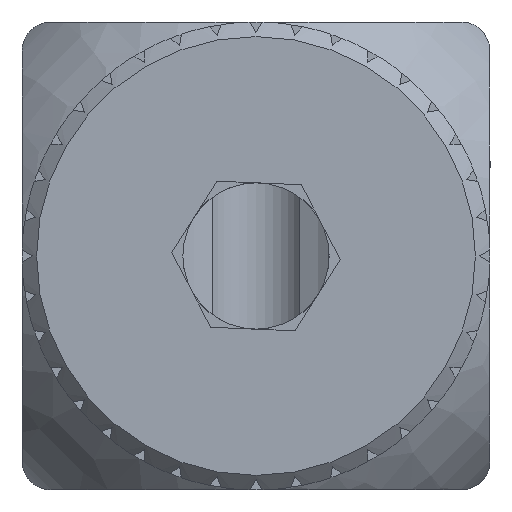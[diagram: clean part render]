
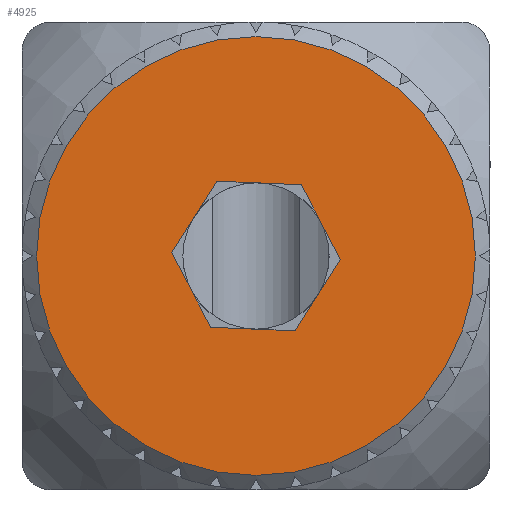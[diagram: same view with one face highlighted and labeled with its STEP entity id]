
A CAD part, left-side view. The second image highlights one B-rep face of the part: STEP entity #4925.
In plain terms, the highlighted planar face has unit normal (-1, 0, 0).
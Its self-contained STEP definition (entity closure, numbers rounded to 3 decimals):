
#385 = AXIS2_PLACEMENT_3D ( 'NONE', #6893, #6894, #6895 ) ;
#1422 = AXIS2_PLACEMENT_3D ( 'NONE', #2641, #2658, #2660 ) ;
#1929 = LINE ( 'NONE', #6306, #1945 ) ;
#1945 = VECTOR ( 'NONE', #6333, 1000. ) ;
#1948 = LINE ( 'NONE', #6346, #1951 ) ;
#1951 = VECTOR ( 'NONE', #6350, 1000. ) ;
#1954 = LINE ( 'NONE', #6360, #1957 ) ;
#1957 = VECTOR ( 'NONE', #6363, 1000. ) ;
#1960 = LINE ( 'NONE', #6373, #1963 ) ;
#1963 = VECTOR ( 'NONE', #6377, 1000. ) ;
#1966 = LINE ( 'NONE', #6387, #1969 ) ;
#1969 = VECTOR ( 'NONE', #6883, 1000. ) ;
#1972 = LINE ( 'NONE', #6887, #1975 ) ;
#1975 = VECTOR ( 'NONE', #6888, 1000. ) ;
#1976 = CIRCLE ( 'NONE', #385, 7.5 ) ;
#2641 = CARTESIAN_POINT ( 'NONE',  ( 28.398, -25.573, 40.994 ) ) ;
#2650 = PLANE ( 'NONE',  #1422 ) ;
#2658 = DIRECTION ( 'NONE',  ( 1., 0., 0. ) ) ;
#2660 = DIRECTION ( 'NONE',  ( 0., 0., -1. ) ) ;
#4174 = EDGE_CURVE ( 'NONE', #8353, #8363, #1929, .T. ) ;
#4177 = EDGE_CURVE ( 'NONE', #8352, #8353, #1948, .T. ) ;
#4180 = EDGE_CURVE ( 'NONE', #8348, #8352, #1954, .T. ) ;
#4183 = EDGE_CURVE ( 'NONE', #8347, #8348, #1960, .T. ) ;
#4186 = EDGE_CURVE ( 'NONE', #8357, #8347, #1966, .T. ) ;
#4189 = EDGE_CURVE ( 'NONE', #8363, #8357, #1972, .T. ) ;
#4191 = EDGE_CURVE ( 'NONE', #7303, #7303, #1976, .T. ) ;
#4925 = ADVANCED_FACE ( 'NONE', ( #6023, #6030 ), #2650, .F. ) ;
#5439 = ORIENTED_EDGE ( 'NONE', *, *, #4191, .T. ) ;
#5440 = ORIENTED_EDGE ( 'NONE', *, *, #4186, .F. ) ;
#5441 = ORIENTED_EDGE ( 'NONE', *, *, #4183, .F. ) ;
#5442 = ORIENTED_EDGE ( 'NONE', *, *, #4180, .F. ) ;
#5443 = ORIENTED_EDGE ( 'NONE', *, *, #4177, .F. ) ;
#5444 = ORIENTED_EDGE ( 'NONE', *, *, #4174, .F. ) ;
#5445 = ORIENTED_EDGE ( 'NONE', *, *, #4189, .F. ) ;
#6023 = FACE_BOUND ( 'NONE', #8934, .T. ) ;
#6030 = FACE_OUTER_BOUND ( 'NONE', #8936, .T. ) ;
#6306 = CARTESIAN_POINT ( 'NONE',  ( 28.398, -24.237, 43.553 ) ) ;
#6333 = DIRECTION ( 'NONE',  ( 0., 0.536, -0.844 ) ) ;
#6346 = CARTESIAN_POINT ( 'NONE',  ( 28.398, -27.121, 43.431 ) ) ;
#6350 = DIRECTION ( 'NONE',  ( 0., 0.999, 0.042 ) ) ;
#6360 = CARTESIAN_POINT ( 'NONE',  ( 28.398, -28.458, 40.872 ) ) ;
#6363 = DIRECTION ( 'NONE',  ( 0., 0.463, 0.886 ) ) ;
#6373 = CARTESIAN_POINT ( 'NONE',  ( 28.398, -26.91, 38.435 ) ) ;
#6377 = DIRECTION ( 'NONE',  ( 0., -0.536, 0.844 ) ) ;
#6387 = CARTESIAN_POINT ( 'NONE',  ( 28.398, -24.026, 38.557 ) ) ;
#6571 = CARTESIAN_POINT ( 'NONE',  ( 28.398, -26.91, 38.435 ) ) ;
#6572 = CARTESIAN_POINT ( 'NONE',  ( 28.398, -28.458, 40.872 ) ) ;
#6576 = CARTESIAN_POINT ( 'NONE',  ( 28.398, -27.121, 43.431 ) ) ;
#6577 = CARTESIAN_POINT ( 'NONE',  ( 28.398, -24.237, 43.553 ) ) ;
#6581 = CARTESIAN_POINT ( 'NONE',  ( 28.398, -24.026, 38.557 ) ) ;
#6587 = CARTESIAN_POINT ( 'NONE',  ( 28.398, -22.689, 41.116 ) ) ;
#6883 = DIRECTION ( 'NONE',  ( 0., -0.999, -0.042 ) ) ;
#6887 = CARTESIAN_POINT ( 'NONE',  ( 28.398, -22.689, 41.116 ) ) ;
#6888 = DIRECTION ( 'NONE',  ( 0., -0.463, -0.886 ) ) ;
#6893 = CARTESIAN_POINT ( 'NONE',  ( 28.398, -25.573, 40.994 ) ) ;
#6894 = DIRECTION ( 'NONE',  ( -1., 0., 0. ) ) ;
#6895 = DIRECTION ( 'NONE',  ( 0., 0., -1. ) ) ;
#7303 = VERTEX_POINT ( 'NONE', #7416 ) ;
#7416 = CARTESIAN_POINT ( 'NONE',  ( 28.398, -25.573, 33.494 ) ) ;
#8347 = VERTEX_POINT ( 'NONE', #6571 ) ;
#8348 = VERTEX_POINT ( 'NONE', #6572 ) ;
#8352 = VERTEX_POINT ( 'NONE', #6576 ) ;
#8353 = VERTEX_POINT ( 'NONE', #6577 ) ;
#8357 = VERTEX_POINT ( 'NONE', #6581 ) ;
#8363 = VERTEX_POINT ( 'NONE', #6587 ) ;
#8934 = EDGE_LOOP ( 'NONE', ( #5445, #5444, #5443, #5442, #5441, #5440 ) ) ;
#8936 = EDGE_LOOP ( 'NONE', ( #5439 ) ) ;
